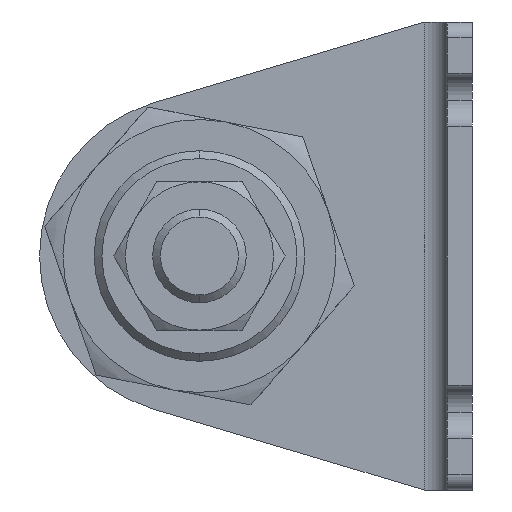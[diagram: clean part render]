
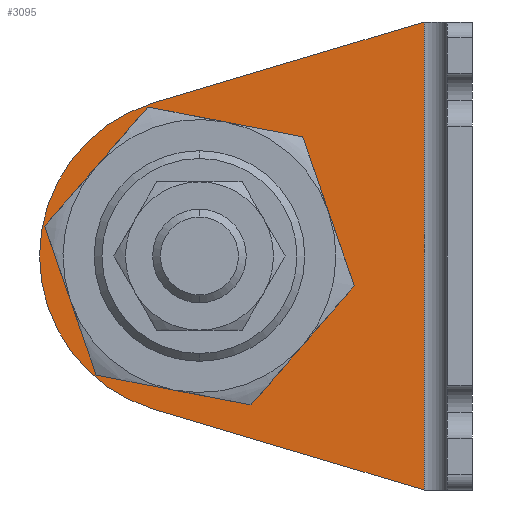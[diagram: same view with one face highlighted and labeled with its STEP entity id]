
A CAD part, left-side view. The second image highlights one B-rep face of the part: STEP entity #3095.
In plain terms, the highlighted planar face has unit normal (-1, 0, 0) as drawn and (1, 0, 0) by its records, which use the part's own axes.
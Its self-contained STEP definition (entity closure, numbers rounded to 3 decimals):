
#13 = DIRECTION ( 'NONE',  ( 1., 0., 0. ) ) ;
#31 = AXIS2_PLACEMENT_3D ( 'NONE', #181, #2492, #3799 ) ;
#42 = FACE_OUTER_BOUND ( 'NONE', #295, .T. ) ;
#124 = ORIENTED_EDGE ( 'NONE', *, *, #3185, .F. ) ;
#157 = AXIS2_PLACEMENT_3D ( 'NONE', #1419, #729, #3064 ) ;
#181 = CARTESIAN_POINT ( 'NONE',  ( 3.2, 35., -30. ) ) ;
#184 = ORIENTED_EDGE ( 'NONE', *, *, #1092, .T. ) ;
#204 = ORIENTED_EDGE ( 'NONE', *, *, #3582, .T. ) ;
#276 = EDGE_CURVE ( 'NONE', #1766, #3777, #1030, .T. ) ;
#295 = EDGE_LOOP ( 'NONE', ( #734, #204, #3117, #124, #184 ) ) ;
#380 = ORIENTED_EDGE ( 'NONE', *, *, #2245, .F. ) ;
#500 = EDGE_CURVE ( 'NONE', #3842, #3447, #1083, .T. ) ;
#575 = VECTOR ( 'NONE', #1209, 1000. ) ;
#608 = VECTOR ( 'NONE', #2685, 1000. ) ;
#729 = DIRECTION ( 'NONE',  ( 1., 0., 0. ) ) ;
#734 = ORIENTED_EDGE ( 'NONE', *, *, #500, .T. ) ;
#796 = EDGE_LOOP ( 'NONE', ( #1544, #380 ) ) ;
#854 = AXIS2_PLACEMENT_3D ( 'NONE', #3629, #3505, #3252 ) ;
#862 = FACE_BOUND ( 'NONE', #796, .T. ) ;
#911 = CARTESIAN_POINT ( 'NONE',  ( 3.2, 21.5, -30. ) ) ;
#1030 = CIRCLE ( 'NONE', #854, 13.5 ) ;
#1040 = AXIS2_PLACEMENT_3D ( 'NONE', #1334, #3466, #1645 ) ;
#1083 = LINE ( 'NONE', #2729, #3660 ) ;
#1092 = EDGE_CURVE ( 'NONE', #3835, #3842, #1449, .T. ) ;
#1209 = DIRECTION ( 'NONE',  ( 0., 0., -1. ) ) ;
#1258 = EDGE_CURVE ( 'NONE', #4302, #3787, #3059, .T. ) ;
#1334 = CARTESIAN_POINT ( 'NONE',  ( 3.2, 35., -30. ) ) ;
#1419 = CARTESIAN_POINT ( 'NONE',  ( 3.2, 3.2, -60. ) ) ;
#1449 = LINE ( 'NONE', #3011, #575 ) ;
#1544 = ORIENTED_EDGE ( 'NONE', *, *, #276, .F. ) ;
#1645 = DIRECTION ( 'NONE',  ( 0., 1., 0. ) ) ;
#1664 = DIRECTION ( 'NONE',  ( 0., 1., 0. ) ) ;
#1766 = VERTEX_POINT ( 'NONE', #2804 ) ;
#1942 = CIRCLE ( 'NONE', #31, 20.5 ) ;
#2240 = CARTESIAN_POINT ( 'NONE',  ( 3.2, 6.2, -60. ) ) ;
#2245 = EDGE_CURVE ( 'NONE', #3777, #1766, #3583, .T. ) ;
#2251 = CARTESIAN_POINT ( 'NONE',  ( 3.2, 55.5, -30. ) ) ;
#2417 = AXIS2_PLACEMENT_3D ( 'NONE', #2982, #13, #1664 ) ;
#2421 = CARTESIAN_POINT ( 'NONE',  ( 3.2, 19.903, -4.094 ) ) ;
#2492 = DIRECTION ( 'NONE',  ( 1., 0., 0. ) ) ;
#2685 = DIRECTION ( 'NONE',  ( 0., 0.958, -0.286 ) ) ;
#2729 = CARTESIAN_POINT ( 'NONE',  ( 3.2, 3.446, -60.823 ) ) ;
#2804 = CARTESIAN_POINT ( 'NONE',  ( 3.2, 48.5, -30. ) ) ;
#2982 = CARTESIAN_POINT ( 'NONE',  ( 3.2, 35., -30. ) ) ;
#3011 = CARTESIAN_POINT ( 'NONE',  ( 3.2, 6.2, -60. ) ) ;
#3037 = DIRECTION ( 'NONE',  ( 0., 0.958, 0.286 ) ) ;
#3059 = CIRCLE ( 'NONE', #2417, 20.5 ) ;
#3064 = DIRECTION ( 'NONE',  ( 0., 1., 0. ) ) ;
#3095 = ADVANCED_FACE ( 'NONE', ( #862, #42 ), #3388, .T. ) ;
#3117 = ORIENTED_EDGE ( 'NONE', *, *, #1258, .T. ) ;
#3185 = EDGE_CURVE ( 'NONE', #3835, #3787, #3205, .T. ) ;
#3205 = LINE ( 'NONE', #2421, #608 ) ;
#3252 = DIRECTION ( 'NONE',  ( 0., 1., 0. ) ) ;
#3262 = CARTESIAN_POINT ( 'NONE',  ( 3.2, 40.868, -49.642 ) ) ;
#3388 = PLANE ( 'NONE',  #157 ) ;
#3447 = VERTEX_POINT ( 'NONE', #3262 ) ;
#3466 = DIRECTION ( 'NONE',  ( 1., 0., 0. ) ) ;
#3505 = DIRECTION ( 'NONE',  ( 1., 0., 0. ) ) ;
#3582 = EDGE_CURVE ( 'NONE', #3447, #4302, #1942, .T. ) ;
#3583 = CIRCLE ( 'NONE', #1040, 13.5 ) ;
#3584 = CARTESIAN_POINT ( 'NONE',  ( 3.2, 6.2, 0. ) ) ;
#3615 = CARTESIAN_POINT ( 'NONE',  ( 3.2, 40.868, -10.358 ) ) ;
#3629 = CARTESIAN_POINT ( 'NONE',  ( 3.2, 35., -30. ) ) ;
#3660 = VECTOR ( 'NONE', #3037, 1000. ) ;
#3777 = VERTEX_POINT ( 'NONE', #911 ) ;
#3787 = VERTEX_POINT ( 'NONE', #3615 ) ;
#3799 = DIRECTION ( 'NONE',  ( 0., 1., 0. ) ) ;
#3835 = VERTEX_POINT ( 'NONE', #3584 ) ;
#3842 = VERTEX_POINT ( 'NONE', #2240 ) ;
#4302 = VERTEX_POINT ( 'NONE', #2251 ) ;
